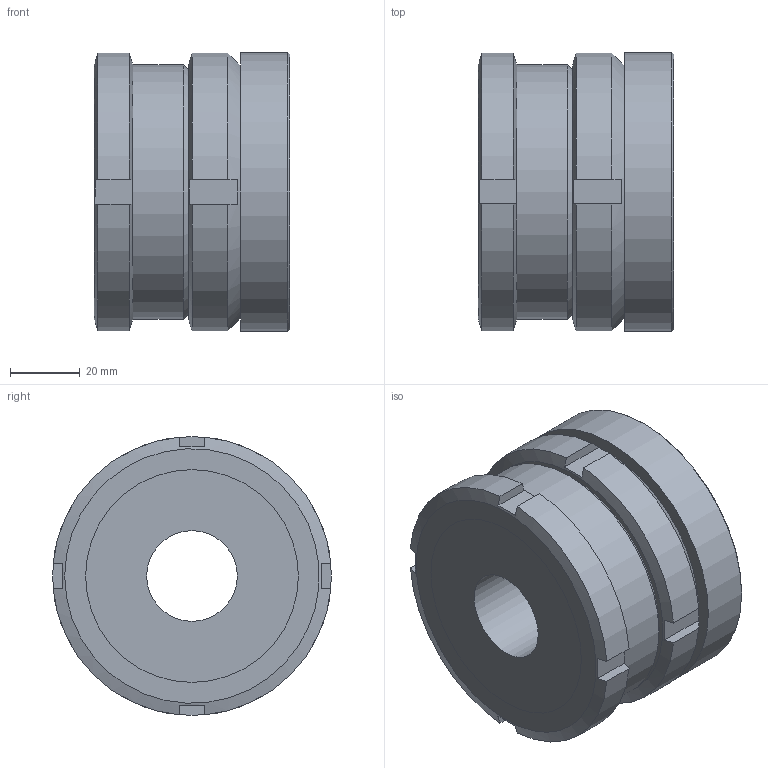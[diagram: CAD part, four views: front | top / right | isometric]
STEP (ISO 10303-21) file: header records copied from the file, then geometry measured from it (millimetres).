
FILE_DESCRIPTION( ( 'STEP AP203' ), '1' );
FILE_NAME( 'C:/Temp/Ganter_Step_05_03_2020/data/3_2/gn350_2/gn_350_2_st/Levelling set GN 350.2-80-26-56-ST (0-0).stp', '2020-03-13T05:28:00', ( 'License CC BY-ND 4.0' ), ( 'CADENAS' ), ' ', 'PARTsolutions', ' ' );
FILE_SCHEMA( ( 'CONFIG_CONTROL_DESIGN' ) );
Length unit declared in the file: millimetre
Products named in the file (4): Levelling set GN 350.2-80-26-56-ST (0-0); _Levelling set GN 350.2-80-26-56-ST-G; _Levelling set GN 350.2-80-26-56-ST-K; _Levelling set GN 350.2-80-26-56-ST-P(0)
Assembly tree (3 placements, depth 2):
  Levelling set GN 350.2-80-26-56-ST (0-0)
    _Levelling set GN 350.2-80-26-56-ST-G
    _Levelling set GN 350.2-80-26-56-ST-K
    _Levelling set GN 350.2-80-26-56-ST-P(0)
Bounding box: 56 x 80 x 80 mm (x, y, z)
Volume: 225355.8 mm3; surface area: 50584.3 mm2
Topology: 3 solids, 3 shells, 62 faces, 149 edges, 99 vertices
Faces by surface type: plane 36, cylinder 19, cone 5, sphere 2
Full cylindrical faces by diameter (mm): 26 x1, 48 x1, 53.529 x1, 54.5 x1, 57.835 x1, 60 x2, 61 x2, 73 x1, 80 x1
Entity records: 1925 total; most frequent: CARTESIAN_POINT 462, DIRECTION 276, ORIENTED_EDGE 248, EDGE_CURVE 124, AXIS2_PLACEMENT_3D 122, EDGE_LOOP 92, VERTEX_POINT 92, FACE_OUTER_BOUND 75
